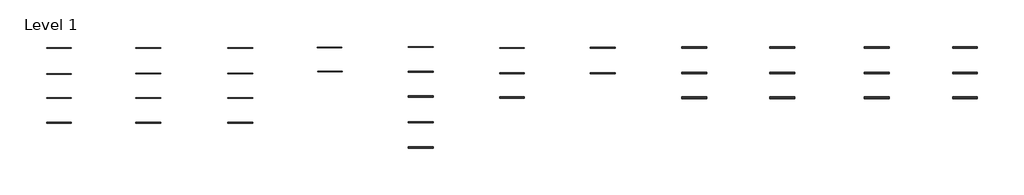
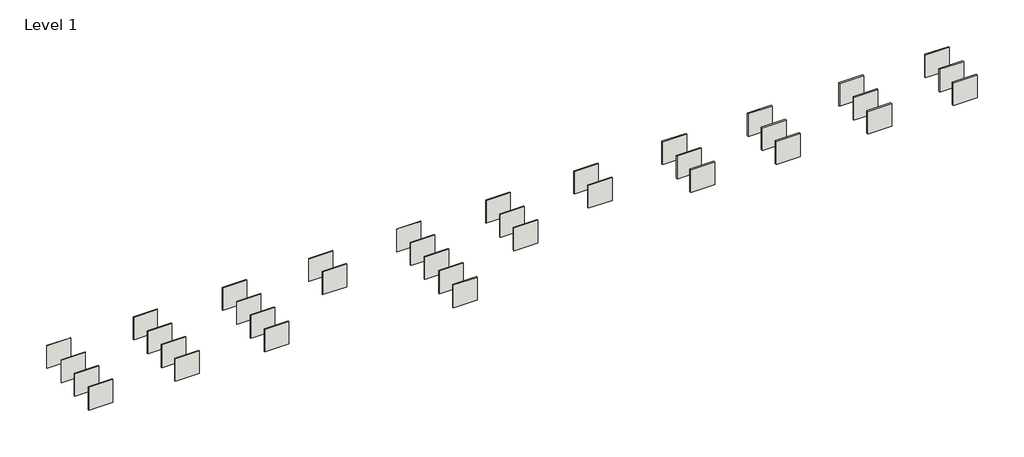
# One storey: 36 walls.
"""IFC4 building model written with IfcOpenShell, lengths in millimetres."""

from ifc_helpers import new_model, si_unit, origin, origin_with_axes, place, context, project, spatial, polyline, outline, extrude, element, save

model = new_model("IFC4")

# Units and contexts
model_context = context("Model", 3, world=origin())
ifc_project = project(units=[si_unit("LENGTHUNIT", "METRE", prefix="MILLI")], contexts=[model_context])

# Site, building, storey
site = spatial("IfcSite", under=ifc_project)
building = spatial("IfcBuilding", under=site)
storey = spatial("IfcBuildingStorey", under=building, Name="Level 1", Elevation=0.0)

# Walls
placement = place(None, origin())
element("IfcWall", 1, ObjectType="VE MR45 450 -/AA M45", at=placement, inside=storey, context=model_context, shape_type="SweptSolid", body=[
    extrude(outline(polyline([(-30761.8063377, -13077.040089), (-34761.8063377, -13077.040089), (-34761.8063377, -13007.0400868), (-30761.8063377, -13007.0400868), (-30761.8063377, -13077.040089)])), origin_with_axes(), (0.0, 0.0, 1.0), 4000.0),
])
element("IfcWall", 2, ObjectType="VE MR70 450 -/AA M45", at=placement, inside=storey, context=model_context, shape_type="SweptSolid", body=[
    extrude(outline(polyline([(-30761.8063377, -17286.1227119), (-34761.8063377, -17286.1227119), (-34761.8063377, -17191.1227089), (-30761.8063377, -17191.1227089), (-30761.8063377, -17286.1227119)])), origin_with_axes(), (0.0, 0.0, 1.0), 4000.0),
])
element("IfcWall", 3, ObjectType="VE MR95 450 -/AA M45", at=placement, inside=storey, context=model_context, shape_type="SweptSolid", body=[
    extrude(outline(polyline([(-30761.8063377, -21165.7988687), (-34761.8063377, -21165.7988687), (-34761.8063377, -21045.7988649), (-30761.8063377, -21045.7988649), (-30761.8063377, -21165.7988687)])), origin_with_axes(), (0.0, 0.0, 1.0), 4000.0),
])
element("IfcWall", 4, ObjectType="VE MR120 450 -/AA M45", at=placement, inside=storey, context=model_context, shape_type="SweptSolid", body=[
    extrude(outline(polyline([(-30761.8063377, -25191.8778993), (-34761.8063377, -25191.8778993), (-34761.8063377, -25046.8778947), (-30761.8063377, -25046.8778947), (-30761.8063377, -25191.8778993)])), origin_with_axes(), (0.0, 0.0, 1.0), 4000.0),
])
element("IfcWall", 5, ObjectType="VE MR45 450 -/AAA M45", at=placement, inside=storey, context=model_context, shape_type="SweptSolid", body=[
    extrude(outline(polyline([(-16304.5225459, -13077.040089), (-20304.5225459, -13077.040089), (-20304.5225459, -12992.0400863), (-16304.5225459, -12992.0400863), (-16304.5225459, -13077.040089)])), origin_with_axes(), (0.0, 0.0, 1.0), 4000.0),
])
element("IfcWall", 6, ObjectType="VE MR70 450 -/AAA M45", at=placement, inside=storey, context=model_context, shape_type="SweptSolid", body=[
    extrude(outline(polyline([(-16304.5225459, -17191.1227089), (-20304.5225459, -17191.1227089), (-20304.5225459, -17081.1227054), (-16304.5225459, -17081.1227054), (-16304.5225459, -17191.1227089)])), origin_with_axes(), (0.0, 0.0, 1.0), 4000.0),
])
element("IfcWall", 7, ObjectType="VE MR95 450 -/AAA M45", at=placement, inside=storey, context=model_context, shape_type="SweptSolid", body=[
    extrude(outline(polyline([(-16304.5225459, -21165.7988687), (-20304.5225459, -21165.7988687), (-20304.5225459, -21030.7988644), (-16304.5225459, -21030.7988644), (-16304.5225459, -21165.7988687)])), origin_with_axes(), (0.0, 0.0, 1.0), 4000.0),
])
element("IfcWall", 8, ObjectType="VE MR120 450 -/AAA M45", at=placement, inside=storey, context=model_context, shape_type="SweptSolid", body=[
    extrude(outline(polyline([(-16304.5225459, -25191.8778993), (-20304.5225459, -25191.8778993), (-20304.5225459, -25031.8778942), (-16304.5225459, -25031.8778942), (-16304.5225459, -25191.8778993)])), origin_with_axes(), (0.0, 0.0, 1.0), 4000.0),
])
element("IfcWall", 9, ObjectType="VE MR45 450 A/A M45", at=placement, inside=storey, context=model_context, shape_type="SweptSolid", body=[
    extrude(outline(polyline([(-1444.6308511, -13077.040089), (-5444.6308511, -13077.040089), (-5444.6308511, -13007.0400868), (-1444.6308511, -13007.0400868), (-1444.6308511, -13077.040089)])), origin_with_axes(), (0.0, 0.0, 1.0), 4000.0),
])
element("IfcWall", 10, ObjectType="VE MR70 450 A/A M45", at=placement, inside=storey, context=model_context, shape_type="SweptSolid", body=[
    extrude(outline(polyline([(-1444.6308511, -17191.1227089), (-5444.6308511, -17191.1227089), (-5444.6308511, -17096.1227058), (-1444.6308511, -17096.1227058), (-1444.6308511, -17191.1227089)])), origin_with_axes(), (0.0, 0.0, 1.0), 4000.0),
])
element("IfcWall", 11, ObjectType="VE MR95 450 A/A M45", at=placement, inside=storey, context=model_context, shape_type="SweptSolid", body=[
    extrude(outline(polyline([(-1444.6308511, -21165.7988687), (-5444.6308511, -21165.7988687), (-5444.6308511, -21045.7988649), (-1444.6308511, -21045.7988649), (-1444.6308511, -21165.7988687)])), origin_with_axes(), (0.0, 0.0, 1.0), 4000.0),
])
element("IfcWall", 12, ObjectType="VE MR120 450 A/A M45", at=placement, inside=storey, context=model_context, shape_type="SweptSolid", body=[
    extrude(outline(polyline([(-1444.6308511, -25191.8778993), (-5444.6308511, -25191.8778993), (-5444.6308511, -25046.8778947), (-1444.6308511, -25046.8778947), (-1444.6308511, -25191.8778993)])), origin_with_axes(), (0.0, 0.0, 1.0), 4000.0),
])
element("IfcWall", 13, ObjectType="VE MR+70 600 AA/AA MS", at=placement, inside=storey, context=model_context, shape_type="SweptSolid", body=[
    extrude(outline(polyline([(13049.2536591, -16877.040089), (9049.2536591, -16877.040089), (9049.2536591, -16757.0400852), (13049.2536591, -16757.0400852), (13049.2536591, -16877.040089)])), origin_with_axes(), (0.0, 0.0, 1.0), 4000.0),
])
element("IfcWall", 14, ObjectType="VE MR45 450 AA/AA M45", at=placement, inside=storey, context=model_context, shape_type="SweptSolid", body=[
    extrude(outline(polyline([(12994.6399655, -13001.2883836), (8994.6399655, -13001.2883836), (8994.6399655, -12906.2883806), (12994.6399655, -12906.2883806), (12994.6399655, -13001.2883836)])), origin_with_axes(), (0.0, 0.0, 1.0), 4000.0),
])
element("IfcWall", 15, ObjectType="VE MR+95 450 AA/AA MS", at=placement, inside=storey, context=model_context, shape_type="SweptSolid", body=[
    extrude(outline(polyline([(27726.1417617, -25077.040089), (23726.1417617, -25077.040089), (23726.1417617, -24932.0400844), (27726.1417617, -24932.0400844), (27726.1417617, -25077.040089)])), origin_with_axes(), (0.0, 0.0, 1.0), 4000.0),
])
element("IfcWall", 16, ObjectType="VE MR+120 450 AA/AA MS", at=placement, inside=storey, context=model_context, shape_type="SweptSolid", body=[
    extrude(outline(polyline([(27726.1417617, -29191.1227089), (23726.1417617, -29191.1227089), (23726.1417617, -29021.1227034), (27726.1417617, -29021.1227034), (27726.1417617, -29191.1227089)])), origin_with_axes(), (0.0, 0.0, 1.0), 4000.0),
])
element("IfcWall", 17, ObjectType="VE MR70 450 AA/AA M45", at=placement, inside=storey, context=model_context, shape_type="SweptSolid", body=[
    extrude(outline(polyline([(27726.1417617, -12905.7988668), (23726.1417617, -12905.7988668), (23726.1417617, -12785.7988629), (27726.1417617, -12785.7988629), (27726.1417617, -12905.7988668)])), origin_with_axes(), (0.0, 0.0, 1.0), 4000.0),
])
element("IfcWall", 18, ObjectType="VE MR95 450 AA/AA M45", at=placement, inside=storey, context=model_context, shape_type="SweptSolid", body=[
    extrude(outline(polyline([(27726.1417617, -16918.6764624), (23726.1417617, -16918.6764624), (23726.1417617, -16773.6764578), (27726.1417617, -16773.6764578), (27726.1417617, -16918.6764624)])), origin_with_axes(), (0.0, 0.0, 1.0), 4000.0),
])
element("IfcWall", 19, ObjectType="VE MR120 450 AA/AA M45", at=placement, inside=storey, context=model_context, shape_type="SweptSolid", body=[
    extrude(outline(polyline([(27726.1417617, -20944.755493), (23726.1417617, -20944.755493), (23726.1417617, -20774.7554876), (27726.1417617, -20774.7554876), (27726.1417617, -20944.755493)])), origin_with_axes(), (0.0, 0.0, 1.0), 4000.0),
])
element("IfcWall", 20, ObjectType="VE MR70 450 AA/AA M70", at=placement, inside=storey, context=model_context, shape_type="SweptSolid", body=[
    extrude(outline(polyline([(42476.2313011, -13077.040089), (38476.2313011, -13077.040089), (38476.2313011, -12957.0400852), (42476.2313011, -12957.0400852), (42476.2313011, -13077.040089)])), origin_with_axes(), (0.0, 0.0, 1.0), 4000.0),
])
element("IfcWall", 21, ObjectType="VE MR95 450 AA/AA M70", at=placement, inside=storey, context=model_context, shape_type="SweptSolid", body=[
    extrude(outline(polyline([(42476.2313011, -17191.1227089), (38476.2313011, -17191.1227089), (38476.2313011, -17046.1227042), (42476.2313011, -17046.1227042), (42476.2313011, -17191.1227089)])), origin_with_axes(), (0.0, 0.0, 1.0), 4000.0),
])
element("IfcWall", 22, ObjectType="VE MR120 450 AA/AA M70", at=placement, inside=storey, context=model_context, shape_type="SweptSolid", body=[
    extrude(outline(polyline([(42476.2313011, -21105.7988668), (38476.2313011, -21105.7988668), (38476.2313011, -20935.7988613), (42476.2313011, -20935.7988613), (42476.2313011, -21105.7988668)])), origin_with_axes(), (0.0, 0.0, 1.0), 4000.0),
])
element("IfcWall", 23, ObjectType="VE MR95 450 AA/AA M95", at=placement, inside=storey, context=model_context, shape_type="SweptSolid", body=[
    extrude(outline(polyline([(57153.1194036, -13077.040089), (53153.1194036, -13077.040089), (53153.1194036, -12932.0400844), (57153.1194036, -12932.0400844), (57153.1194036, -13077.040089)])), origin_with_axes(), (0.0, 0.0, 1.0), 4000.0),
])
element("IfcWall", 24, ObjectType="VE MR120 450 AA/AA M95", at=placement, inside=storey, context=model_context, shape_type="SweptSolid", body=[
    extrude(outline(polyline([(57153.1194036, -17191.1227089), (53153.1194036, -17191.1227089), (53153.1194036, -17021.1227034), (57153.1194036, -17021.1227034), (57153.1194036, -17191.1227089)])), origin_with_axes(), (0.0, 0.0, 1.0), 4000.0),
])
element("IfcWall", 25, ObjectType="VD MR70 450 AA/AA M90", at=placement, inside=storey, context=model_context, shape_type="SweptSolid", body=[
    extrude(outline(polyline([(71939.8096615, -13077.040089), (67939.8096615, -13077.040089), (67939.8096615, -12847.0400816), (71939.8096615, -12847.0400816), (71939.8096615, -13077.040089)])), origin_with_axes(), (0.0, 0.0, 1.0), 4000.0),
])
element("IfcWall", 26, ObjectType="VD MR95 450 AA/AA M90", at=placement, inside=storey, context=model_context, shape_type="SweptSolid", body=[
    extrude(outline(polyline([(71939.8096615, -17191.1227089), (67939.8096615, -17191.1227089), (67939.8096615, -16941.1227009), (71939.8096615, -16941.1227009), (71939.8096615, -17191.1227089)])), origin_with_axes(), (0.0, 0.0, 1.0), 4000.0),
])
element("IfcWall", 27, ObjectType="VD MR120 450 AA/AA M90", at=placement, inside=storey, context=model_context, shape_type="SweptSolid", body=[
    extrude(outline(polyline([(71939.8096615, -21202.3995872), (67939.8096615, -21202.3995872), (67939.8096615, -20902.3995776), (71939.8096615, -20902.3995776), (71939.8096615, -21202.3995872)])), origin_with_axes(), (0.0, 0.0, 1.0), 4000.0),
])
element("IfcWall", 28, ObjectType="VD MR70 450 AAA/AAA M140", at=placement, inside=storey, context=model_context, shape_type="SweptSolid", body=[
    extrude(outline(polyline([(86177.4891425, -13077.040089), (82177.4891425, -13077.040089), (82177.4891425, -12852.0400818), (86177.4891425, -12852.0400818), (86177.4891425, -13077.040089)])), origin_with_axes(), (0.0, 0.0, 1.0), 4000.0),
])
element("IfcWall", 29, ObjectType="VD MR95 450 AAA/AAA M140", at=placement, inside=storey, context=model_context, shape_type="SweptSolid", body=[
    extrude(outline(polyline([(86177.4891425, -17191.1227089), (82177.4891425, -17191.1227089), (82177.4891425, -16926.1227004), (86177.4891425, -16926.1227004), (86177.4891425, -17191.1227089)])), origin_with_axes(), (0.0, 0.0, 1.0), 4000.0),
])
element("IfcWall", 30, ObjectType="VD MR120 450 AAA/AAA M140", at=placement, inside=storey, context=model_context, shape_type="SweptSolid", body=[
    extrude(outline(polyline([(86177.4891425, -21202.3995872), (82177.4891425, -21202.3995872), (82177.4891425, -20887.3995771), (86177.4891425, -20887.3995771), (86177.4891425, -21202.3995872)])), origin_with_axes(), (0.0, 0.0, 1.0), 4000.0),
])
element("IfcWall", 31, ObjectType="VD MR70 450 FF/FF M90", at=placement, inside=storey, context=model_context, shape_type="SweptSolid", body=[
    extrude(outline(polyline([(101439.9887404, -13077.040089), (97439.9887404, -13077.040089), (97439.9887404, -12847.0400816), (101439.9887404, -12847.0400816), (101439.9887404, -13077.040089)])), origin_with_axes(), (0.0, 0.0, 1.0), 4000.0),
])
element("IfcWall", 32, ObjectType="VD MR95 450 FF/FF M90", at=placement, inside=storey, context=model_context, shape_type="SweptSolid", body=[
    extrude(outline(polyline([(101439.9887404, -17191.1227089), (97439.9887404, -17191.1227089), (97439.9887404, -16931.1227006), (101439.9887404, -16931.1227006), (101439.9887404, -17191.1227089)])), origin_with_axes(), (0.0, 0.0, 1.0), 4000.0),
])
element("IfcWall", 33, ObjectType="VD MR120 450 FF/FF M90", at=placement, inside=storey, context=model_context, shape_type="SweptSolid", body=[
    extrude(outline(polyline([(101439.9887404, -21202.3995872), (97439.9887404, -21202.3995872), (97439.9887404, -20892.3995772), (101439.9887404, -20892.3995772), (101439.9887404, -21202.3995872)])), origin_with_axes(), (0.0, 0.0, 1.0), 4000.0),
])
element("IfcWall", 34, ObjectType="VD MR70 450 AFF/FFA M140", at=placement, inside=storey, context=model_context, shape_type="SweptSolid", body=[
    extrude(outline(polyline([(115714.2689399, -13077.040089), (111714.2689399, -13077.040089), (111714.2689399, -12842.0400815), (115714.2689399, -12842.0400815), (115714.2689399, -13077.040089)])), origin_with_axes(), (0.0, 0.0, 1.0), 4000.0),
])
element("IfcWall", 35, ObjectType="VD MR95 450 AFF/FFA M140", at=placement, inside=storey, context=model_context, shape_type="SweptSolid", body=[
    extrude(outline(polyline([(115714.2689399, -17191.1227089), (111714.2689399, -17191.1227089), (111714.2689399, -16916.1227001), (115714.2689399, -16916.1227001), (115714.2689399, -17191.1227089)])), origin_with_axes(), (0.0, 0.0, 1.0), 4000.0),
])
element("IfcWall", 36, ObjectType="VD MR120 450 AFF/FFA M140", at=placement, inside=storey, context=model_context, shape_type="SweptSolid", body=[
    extrude(outline(polyline([(115714.2689399, -21202.3995872), (111714.2689399, -21202.3995872), (111714.2689399, -20877.3995768), (115714.2689399, -20877.3995768), (115714.2689399, -21202.3995872)])), origin_with_axes(), (0.0, 0.0, 1.0), 4000.0),
])

save(model, "model.ifc")
